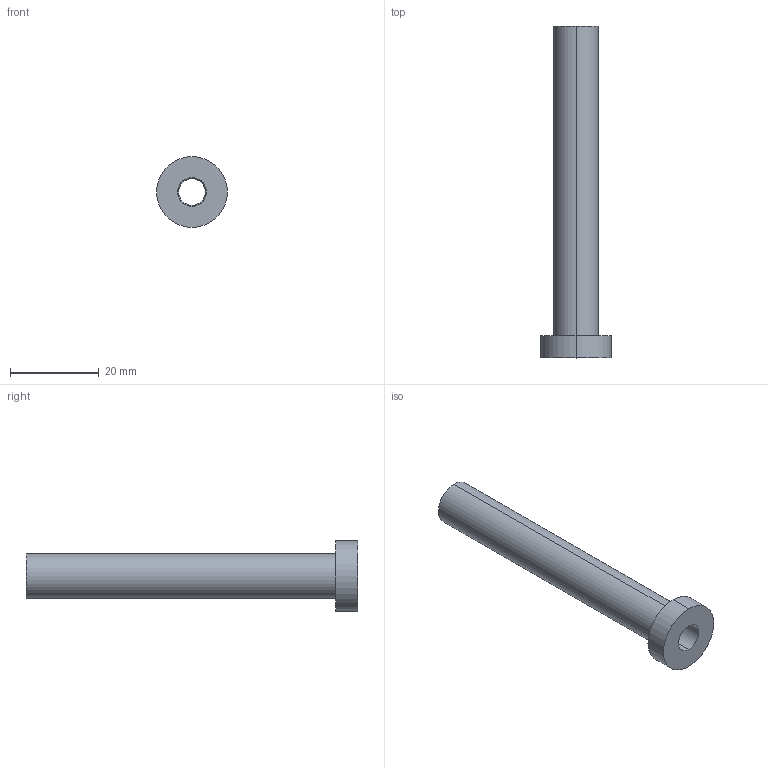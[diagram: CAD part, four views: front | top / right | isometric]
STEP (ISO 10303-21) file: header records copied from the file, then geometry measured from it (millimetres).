
FILE_DESCRIPTION (( 'STEP AP214' ), '1' );
FILE_NAME ('ET-ETN-6x75.STEP', '2019-12-16T17:03:37', ( 'August' ), ( '' ), 'SwSTEP 2.0', 'SolidWorks 2018', '' );
FILE_SCHEMA (( 'AUTOMOTIVE_DESIGN' ));
Length unit declared in the file: millimetre
Products named in the file (1): ET-ETN-6x75
Bounding box: 16 x 75 x 16 mm (x, y, z)
Volume: 4235.9 mm3; surface area: 4253.8 mm2
Topology: 1 solids, 1 shells, 13 faces, 26 edges, 16 vertices
Faces by surface type: cylinder 8, plane 3, cone 2
Entity records: 382 total; most frequent: DIRECTION 70, CARTESIAN_POINT 56, ORIENTED_EDGE 52, AXIS2_PLACEMENT_3D 30, EDGE_CURVE 26, CIRCLE 16, VERTEX_POINT 16, EDGE_LOOP 16
